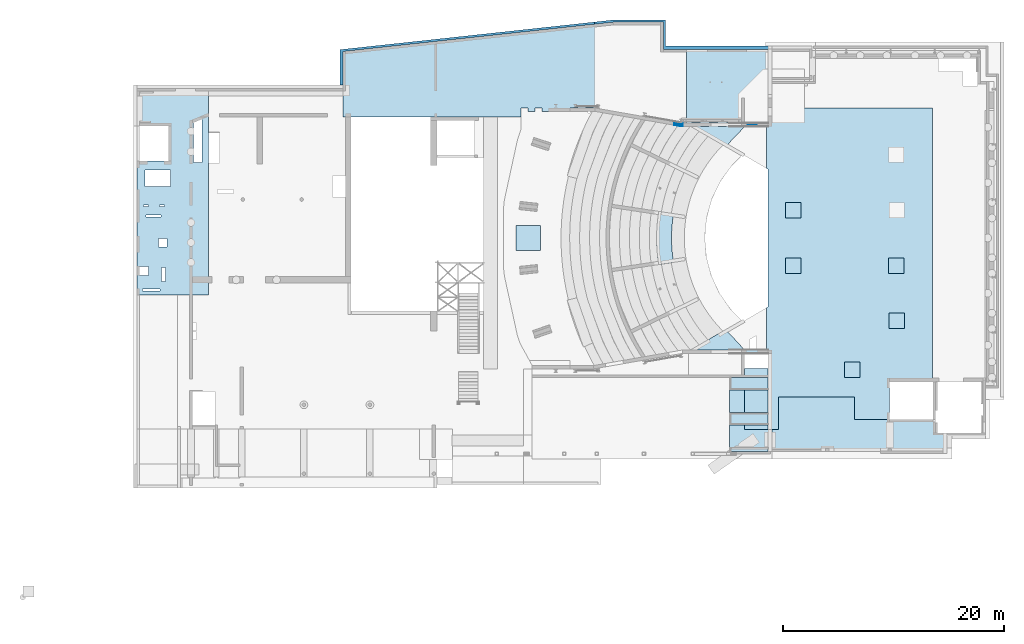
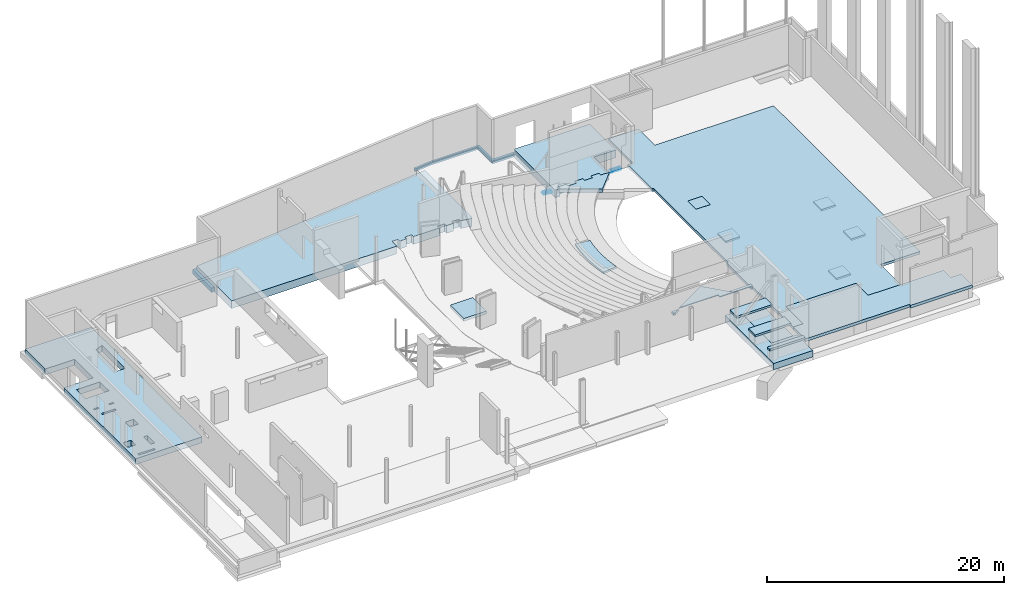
# One storey, part 23 of 34: 23 slabs, 10 openings.
"""IFC2X3 building model written with IfcOpenShell, lengths in millimetres."""

from ifc_helpers import new_model, entity, si_unit, converted_unit, derived_unit, direction, frame, frame_2d, origin, origin_2d_with_axis, place, context, subcontext, project, spatial, polyline, circle_curve, parameter, trimmed, segment, composite_curve, rectangle, outline, extrude, material, layer, layer_set, layer_usage, type_object, element, save


model = new_model("IFC2X3")

# Units and contexts
model_context = context("Model", 3, precision=0.01, world=origin(), true_north=direction((6.12303176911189e-17, 1.0)))
body_context = subcontext(model_context, "Body", "Model", "MODEL_VIEW")
ifc_project = project(units=[si_unit("LENGTHUNIT", "METRE", prefix="MILLI"), si_unit("AREAUNIT", "SQUARE_METRE", prefix="MILLI"), si_unit("VOLUMEUNIT", "CUBIC_METRE"), converted_unit("PLANEANGLEUNIT", "DEGREE", entity("IfcRatioMeasure", 0.0174532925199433), si_unit("PLANEANGLEUNIT", "RADIAN"), dimensions=[0, 0, 0, 0, 0, 0, 0]), si_unit("MASSUNIT", "GRAM", prefix="KILO"), derived_unit("MASSDENSITYUNIT", [(si_unit("MASSUNIT", "GRAM", prefix="KILO"), 1), (si_unit("LENGTHUNIT", "METRE"), -3)]), derived_unit("MOMENTOFINERTIAUNIT", [(si_unit("LENGTHUNIT", "METRE"), 4)]), si_unit("TIMEUNIT", "SECOND"), si_unit("FREQUENCYUNIT", "HERTZ"), si_unit("THERMODYNAMICTEMPERATUREUNIT", "DEGREE_CELSIUS"), derived_unit("THERMALTRANSMITTANCEUNIT", [(si_unit("MASSUNIT", "GRAM", prefix="KILO"), 1), (si_unit("THERMODYNAMICTEMPERATUREUNIT", "KELVIN"), -1), (si_unit("TIMEUNIT", "SECOND"), -3)]), derived_unit("VOLUMETRICFLOWRATEUNIT", [(si_unit("LENGTHUNIT", "METRE"), 3), (si_unit("TIMEUNIT", "SECOND"), -1)]), si_unit("ELECTRICCURRENTUNIT", "AMPERE"), si_unit("ELECTRICVOLTAGEUNIT", "VOLT"), si_unit("POWERUNIT", "WATT"), si_unit("FORCEUNIT", "NEWTON", prefix="KILO"), si_unit("ILLUMINANCEUNIT", "LUX"), si_unit("LUMINOUSFLUXUNIT", "LUMEN"), si_unit("LUMINOUSINTENSITYUNIT", "CANDELA"), derived_unit("USERDEFINED", [(si_unit("MASSUNIT", "GRAM", prefix="KILO"), -1), (si_unit("LENGTHUNIT", "METRE"), -2), (si_unit("TIMEUNIT", "SECOND"), 3), (si_unit("LUMINOUSFLUXUNIT", "LUMEN"), 1)]), derived_unit("LINEARVELOCITYUNIT", [(si_unit("LENGTHUNIT", "METRE"), 1), (si_unit("TIMEUNIT", "SECOND"), -1)]), si_unit("PRESSUREUNIT", "PASCAL"), derived_unit("USERDEFINED", [(si_unit("LENGTHUNIT", "METRE"), -2), (si_unit("MASSUNIT", "GRAM", prefix="KILO"), 1), (si_unit("TIMEUNIT", "SECOND"), -2)]), derived_unit("LINEARFORCEUNIT", [(si_unit("MASSUNIT", "GRAM", prefix="KILO"), 1), (si_unit("LENGTHUNIT", "METRE"), 1), (si_unit("TIMEUNIT", "SECOND"), -2), (si_unit("LENGTHUNIT", "METRE"), -1)]), derived_unit("PLANARFORCEUNIT", [(si_unit("MASSUNIT", "GRAM", prefix="KILO"), 1), (si_unit("LENGTHUNIT", "METRE"), 1), (si_unit("TIMEUNIT", "SECOND"), -2), (si_unit("LENGTHUNIT", "METRE"), -2)])], contexts=[model_context])

# Site, building, storey
site_placement = place(None, origin())
site = spatial("IfcSite", under=ifc_project, at=site_placement, Name="Theater aan de Parade", CompositionType="ELEMENT")
building_placement = place(site_placement, origin())
building = spatial("IfcBuilding", under=site, at=building_placement, Name="Theater aan de Parade", CompositionType="ELEMENT")
storey_placement = place(building_placement, frame((0.0, 0.0, 3.49116848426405e-09)))
storey = spatial("IfcBuildingStorey", under=building, at=storey_placement, Name="00 begane grond", CompositionType="ELEMENT", Elevation=3.49116848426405e-09)

# Slabs
ifc_material_1 = material(Name="00_PBT_MAT_beton t.p.g.")
ifc_layer_1 = layer(ifc_material_1, 150.0)
ifc_layer_set_1 = layer_set([ifc_layer_1], Name="Floor:28_PBT_FL_beton t.p.g._d=150_bestaand")
ifc_layer_usage_1 = layer_usage(ifc_layer_set_1, "AXIS3", "POSITIVE", 0.0)
slab_type_1 = type_object("IfcSlabType", Name="Floor:28_PBT_FL_beton t.p.g._d=150_bestaand", PredefinedType="FLOOR", material=ifc_layer_set_1)
slab_1_placement = place(storey_placement, origin())
element("IfcSlab", 1, at=slab_1_placement, inside=storey, type_object=slab_type_1, material=ifc_layer_usage_1, Name="Floor:28_PBT_FL_beton t.p.g._d=150_bestaand", ObjectType="Floor:28_PBT_FL_beton t.p.g._d=150_bestaand", PredefinedType="FLOOR", context=body_context, shape_type="SweptSolid", body=[
    extrude(outline(polyline([(-630.484755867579, -148.0), (369.515244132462, -148.0), (369.515244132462, -8.0), (521.93902347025, 152.0), (-630.484755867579, 152.0), (-630.484755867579, -148.0)])), frame((65789.5152441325, 42702.0, 810.0), z_axis=(0.0, 0.0, 1.0), x_axis=(-1.0, 0.0, 0.0)), (0.0, 0.0, 1.0), 150.0),
    extrude(outline(polyline([(-157.442580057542, -316.818701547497), (142.557419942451, -316.818701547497), (142.557419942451, -117.267752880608), (245.886003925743, 473.181298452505), (-58.6731036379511, 473.181298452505), (-157.442580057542, -91.2157096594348), (-157.442580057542, -104.241731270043), (-157.442580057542, -316.818701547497)])), frame((59350.2128617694, 42707.4425800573, 810.0), z_axis=(0.0, 0.0, 1.0), x_axis=(0.0, 1.0, 0.0)), (0.0, 0.0, 1.0), 150.0),
])
ifc_layer_2 = layer(ifc_material_1, 200.0)
ifc_layer_set_2 = layer_set([ifc_layer_2], Name="Floor:28_PBT_FL_beton t.p.g._d=200_bestaand")
ifc_layer_usage_2 = layer_usage(ifc_layer_set_2, "AXIS3", "POSITIVE", 0.0)
slab_type_2 = type_object("IfcSlabType", Name="Floor:28_PBT_FL_beton t.p.g._d=200_bestaand", PredefinedType="FLOOR", material=ifc_layer_set_2)
slab_2_placement = place(storey_placement, origin())
element("IfcSlab", 2, at=slab_2_placement, inside=storey, type_object=slab_type_2, material=ifc_layer_usage_2, Name="Floor:28_PBT_FL_beton t.p.g._d=200_bestaand", ObjectType="Floor:28_PBT_FL_beton t.p.g._d=200_bestaand", PredefinedType="FLOOR", context=body_context, shape_type="SweptSolid", body=[
    extrude(outline(polyline([(-1198.44340943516, -140.0), (737.812691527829, -140.0), (737.812691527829, -40.0), (921.261435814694, 160.0), (-1198.44340943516, 160.0), (-1198.44340943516, -140.0)])), frame((66157.8126915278, 22180.0, 960.0), z_axis=(0.0, 0.0, -1.0), x_axis=(-1.0, 0.0, 0.0)), (0.0, 0.0, 1.0), 80.0),
])
ifc_layer_3 = layer(ifc_material_1, 380.0)
ifc_layer_set_3 = layer_set([ifc_layer_3], Name="Floor:28_PBT_FL_beton t.p.g._d=380_bestaand")
ifc_layer_usage_3 = layer_usage(ifc_layer_set_3, "AXIS3", "POSITIVE", 0.0)
slab_type_3 = type_object("IfcSlabType", Name="Floor:28_PBT_FL_beton t.p.g._d=380_bestaand", PredefinedType="FLOOR", material=ifc_layer_set_3)
slab_3_placement = place(storey_placement, origin())
element("IfcSlab", 3, at=slab_3_placement, inside=storey, type_object=slab_type_3, material=ifc_layer_usage_3, Name="Floor:28_PBT_FL_beton t.p.g._d=380_bestaand", ObjectType="Floor:28_PBT_FL_beton t.p.g._d=380_bestaand", PredefinedType="FLOOR", context=body_context, shape_type="SweptSolid", body=[
    extrude(outline(composite_curve([segment(polyline([(-352.071482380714, -2370.65962034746), (-212.071482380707, -2370.65962034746)]), True, "CONTINUOUS"), segment(polyline([(-212.071482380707, -2370.65962034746), (1659.78687017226, -587.436342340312)]), True, "CONTINUOUS"), segment(trimmed(circle_curve(frame_2d((10051.3995351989, -9316.7484278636), x_axis=(-0.693024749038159, 0.720913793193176)), 12108.6767487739), [parameter(359.180938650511)], [parameter(0.0)], True, "PARAMETER"), False, "CONTINUOUS"), segment(polyline([(1785.42833029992, -468.371591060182), (-52.0714823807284, 2714.84476976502)]), True, "CONTINUOUS"), segment(polyline([(-52.0714823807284, 2714.84476976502), (-52.0714823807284, 2592.30881633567)]), True, "CONTINUOUS"), segment(polyline([(-52.0714823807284, 2592.30881633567), (-352.071482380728, 2592.30881633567)]), True, "CONTINUOUS"), segment(polyline([(-352.071482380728, 2592.30881633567), (-352.071482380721, 1802.30881633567)]), True, "CONTINUOUS"), segment(polyline([(-352.071482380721, 1802.30881633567), (-52.0714823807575, 1802.30881633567)]), True, "CONTINUOUS"), segment(polyline([(-52.0714823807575, 1802.30881633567), (-52.0714823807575, 1012.30881633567)]), True, "CONTINUOUS"), segment(polyline([(-52.0714823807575, 1012.30881633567), (-352.071482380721, 1012.30881633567)]), True, "CONTINUOUS"), segment(polyline([(-352.071482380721, 1012.30881633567), (-352.071482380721, 222.308816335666)]), True, "CONTINUOUS"), segment(polyline([(-352.071482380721, 222.308816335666), (-52.071482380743, 222.308816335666)]), True, "CONTINUOUS"), segment(polyline([(-52.071482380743, 222.308816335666), (-52.071482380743, -567.691183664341)]), True, "CONTINUOUS"), segment(polyline([(-52.071482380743, -567.691183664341), (-352.071482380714, -567.691183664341)]), True, "CONTINUOUS"), segment(polyline([(-352.071482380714, -567.691183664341), (-352.071482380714, -1357.69118366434)]), True, "CONTINUOUS"), segment(polyline([(-352.071482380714, -1357.69118366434), (-52.0714823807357, -1357.69118366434)]), True, "CONTINUOUS"), segment(polyline([(-52.0714823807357, -1357.69118366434), (-52.0714823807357, -2162.71169584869)]), True, "CONTINUOUS"), segment(polyline([(-52.0714823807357, -2162.71169584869), (-352.071482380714, -2162.71169584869)]), True, "CONTINUOUS"), segment(polyline([(-352.071482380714, -2162.71169584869), (-352.071482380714, -2370.65962034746)]), True, "CONTINUOUS")], self_intersect=False)), frame((63049.3403796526, 42497.9285176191, 960.0), z_axis=(0.0, 0.0, -1.0), x_axis=(0.0, -1.0, 0.0)), (0.0, 0.0, 1.0), 380.0),
])
ifc_layer_usage_4 = layer_usage(ifc_layer_set_3, "AXIS3", "POSITIVE", 0.0)
slab_type_4 = type_object("IfcSlabType", Name="Floor:28_PBT_FL_beton t.p.g._d=380_bestaand", PredefinedType="FLOOR", material=ifc_layer_set_3)
slab_4_placement = place(storey_placement, origin())
element("IfcSlab", 4, at=slab_4_placement, inside=storey, type_object=slab_type_4, material=ifc_layer_usage_4, Name="Floor:28_PBT_FL_beton t.p.g._d=380_bestaand", ObjectType="Floor:28_PBT_FL_beton t.p.g._d=380_bestaand", PredefinedType="FLOOR", context=body_context, shape_type="SweptSolid", body=[
    extrude(outline(polyline([(-178.495454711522, -120.0), (-152.443411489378, -120.0), (-5.13726283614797, -120.0), (514.571583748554, 180.0), (-178.495454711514, 180.0), (-178.495454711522, -120.0)])), frame((59819.9240261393, 22160.0, 580.0)), (0.0, 0.0, 1.0), 260.000000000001),
    extrude(outline(composite_curve([segment(polyline([(-3684.83342451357, 314.841981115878), (-496.401787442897, -1525.66833039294)]), True, "CONTINUOUS"), segment(trimmed(circle_curve(frame_2d((8240.67096559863, -9795.15801888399), x_axis=(0.0, 1.0)), 12030.0), [parameter(44.1498345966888)], [parameter(46.5749090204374)], True, "PARAMETER"), False, "CONTINUOUS"), segment(polyline([(-138.670871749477, -1163.38355630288), (1217.22222131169, 314.841981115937)]), True, "CONTINUOUS"), segment(polyline([(1217.22222131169, 314.841981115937), (1400.67096559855, 514.841981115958)]), True, "CONTINUOUS"), segment(polyline([(1400.67096559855, 514.841981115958), (1400.67096559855, 614.841981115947)]), True, "CONTINUOUS"), segment(polyline([(1400.67096559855, 614.841981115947), (150.670965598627, 614.841981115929)]), True, "CONTINUOUS"), segment(polyline([(150.670965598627, 614.841981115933), (150.670965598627, 314.84198111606)]), True, "CONTINUOUS"), segment(polyline([(150.670965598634, 314.84198111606), (-3684.83342451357, 314.84198111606)]), True, "CONTINUOUS")], self_intersect=False)), frame((64019.3290344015, 22654.8419811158, 880.0), z_axis=(0.0, 0.0, -1.0), x_axis=(1.0, 0.0, 0.0)), (0.0, 0.0, -1.0), 79.9999999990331),
])
ifc_layer_usage_5 = layer_usage(ifc_layer_set_2, "AXIS3", "POSITIVE", 0.0)
slab_type_5 = type_object("IfcSlabType", Name="Floor:28_PBT_FL_beton t.p.g._d=200_bestaand", PredefinedType="FLOOR", material=ifc_layer_set_2)
slab_5_placement = place(storey_placement, origin())
element("IfcSlab", 5, at=slab_5_placement, inside=storey, type_object=slab_type_5, material=ifc_layer_usage_5, Name="Floor:28_PBT_FL_beton t.p.g._d=200_bestaand", ObjectType="Floor:28_PBT_FL_beton t.p.g._d=200_bestaand", PredefinedType="FLOOR", context=body_context, shape_type="SweptSolid", body=[
    extrude(outline(composite_curve([segment(polyline([(-1023.01112421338, -2283.89739377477), (331.426794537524, -2283.89739377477)]), True, "CONTINUOUS"), segment(trimmed(circle_curve(frame_2d((14039.2775712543, -2133.41392121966), x_axis=(-0.999939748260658, -0.0109772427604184)), 13708.6767484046), [parameter(341.460456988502)], [parameter(0.0)], True, "PARAMETER"), False, "CONTINUOUS"), segment(polyline([(994.95580528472, 2082.4475397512), (-303.371475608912, 2485.34724779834)]), True, "CONTINUOUS"), segment(trimmed(circle_curve(frame_2d((13955.9227374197, -2105.1787075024), x_axis=(-0.951888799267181, 0.306443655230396)), 14980.0000000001), [parameter(0.0)], [parameter(18.5286214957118)], True, "PARAMETER"), True, "CONTINUOUS")], self_intersect=False)), frame((58146.1941711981, 32456.4707203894, 970.0), z_axis=(0.0, 0.0, -1.0), x_axis=(0.988744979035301, -0.149610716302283, 0.0)), (0.0, 0.0, 1.0), 200.0),
])
ifc_layer_4 = layer(ifc_material_1, 300.0)
ifc_layer_set_4 = layer_set([ifc_layer_4], Name="Floor:28_PBT_FL_beton t.p.g._d=300_bestaand")
ifc_layer_usage_6 = layer_usage(ifc_layer_set_4, "AXIS3", "POSITIVE", 0.0)
slab_type_6 = type_object("IfcSlabType", Name="Floor:28_PBT_FL_beton t.p.g._d=300_bestaand", PredefinedType="FLOOR", material=ifc_layer_set_4)
slab_6_placement = place(storey_placement, origin())
element("IfcSlab", 6, at=slab_6_placement, inside=storey, type_object=slab_type_6, material=ifc_layer_usage_6, Name="Floor:28_PBT_FL_beton t.p.g._d=300_bestaand", ObjectType="Floor:28_PBT_FL_beton t.p.g._d=300_bestaand", PredefinedType="FLOOR", context=body_context, shape_type="SweptSolid", body=[
    extrude(rectangle(XDim=2299.99999999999, YDim=2199.99999999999, at=frame_2d((-2.1600499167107e-12, 0.0), x_axis=(1.0, 0.0))), frame((45675.0, 32460.0, -60.0), z_axis=(0.0, 0.0, -1.0), x_axis=(0.0, 1.0, 0.0)), (0.0, 0.0, 1.0), 300.0),
])
ifc_material_2 = material(Name="00_PBT_MAT_beton t.p.g._C30/37")
ifc_layer_5 = layer(ifc_material_2, 300.0)
ifc_layer_set_5 = layer_set([ifc_layer_5], Name="Foundation Slab:13_PBT_FS_beton t.p.g._d=300_C30/37")
ifc_layer_usage_7 = layer_usage(ifc_layer_set_5, "AXIS3", "POSITIVE", 0.0)
slab_type_7 = type_object("IfcSlabType", Name="Foundation Slab:13_PBT_FS_beton t.p.g._d=300_C30/37", PredefinedType="BASESLAB", material=ifc_layer_set_5)
slab_7_placement = place(storey_placement, origin())
element("IfcSlab", 7, at=slab_7_placement, inside=storey, type_object=slab_type_7, material=ifc_layer_usage_7, Name="Foundation Slab:13_PBT_FS_beton t.p.g._d=300_C30/37", ObjectType="Foundation Slab:13_PBT_FS_beton t.p.g._d=300_C30/37", PredefinedType="BASESLAB", context=body_context, shape_type="SweptSolid", body=[
    extrude(outline(polyline([(-1904.49999958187, -8373.63799156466), (115.500000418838, -8373.63799156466), (115.500000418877, -7429.79406003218), (3050.50000041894, -7429.79406003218), (3050.50000041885, -579.894092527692), (1005.50000041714, -579.894092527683), (1005.50000041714, 6770.11432917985), (-204.499999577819, 6770.11432917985), (-204.49999957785, 7805.10590747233), (-2062.50000209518, 7805.10590747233), (-2062.50000209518, 1808.10590747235), (-1904.49999958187, 1808.10590747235), (-1904.49999958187, -8373.63799156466)])), frame((75729.8940925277, 15054.4999995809, 880.0), z_axis=(0.0, 0.0, -1.0), x_axis=(0.0, 1.0, 0.0)), (0.0, 0.0, 1.0), 300.0),
])
ifc_layer_6 = layer(ifc_material_2, 270.0)
ifc_layer_set_6 = layer_set([ifc_layer_6], Name="Floor:28_PBT_FL_beton t.p.g._d=270_C30/37")
ifc_layer_usage_8 = layer_usage(ifc_layer_set_6, "AXIS3", "POSITIVE", 0.0)
slab_type_8 = type_object("IfcSlabType", Name="Floor:28_PBT_FL_beton t.p.g._d=270_C30/37", PredefinedType="FLOOR", material=ifc_layer_set_6)
slab_8_placement = place(storey_placement, origin())
element("IfcSlab", 8, at=slab_8_placement, inside=storey, type_object=slab_type_8, material=ifc_layer_usage_8, Name="Floor:28_PBT_FL_beton t.p.g._d=270_C30/37", ObjectType="Floor:28_PBT_FL_beton t.p.g._d=270_C30/37", PredefinedType="FLOOR", context=body_context, shape_type="SweptSolid", body=[
    extrude(outline(polyline([(3865.03489794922, -13916.9003962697), (4365.23144778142, -13916.9003962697), (4365.23144778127, -9817.79361276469), (4221.29099891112, -9733.60307378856), (4221.29099891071, 2699.80228124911), (4365.23144778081, 2783.99282022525), (4365.23144778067, 6893.09960373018), (4215.03489794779, 6893.09960373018), (4215.03489794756, 13763.0996037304), (3271.19096641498, 13763.0996037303), (3271.19096641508, 10828.0996037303), (-3578.70900108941, 10828.0996037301), (-3578.70900108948, 12873.0996037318), (-6778.80903358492, 12873.0996037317), (-6778.8090335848, 9473.09936020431), (-10628.7090010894, 9473.09936020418), (-10628.7090010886, -15251.9003962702), (931.290998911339, -15251.9003962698), (931.290998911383, -18028.7727369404), (3865.03489794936, -18028.7727369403), (3865.03489794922, -13916.9003962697)]), holes=[polyline([(2651.29099891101, -5336.90039626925), (2651.29099891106, -6736.90039626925), (1251.29099891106, -6736.9003962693), (1251.29099891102, -5336.9003962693), (2651.29099891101, -5336.90039626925)])]), frame((71571.2909989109, 28933.09960373, 610.0), z_axis=(0.0, 0.0, 1.0), x_axis=(-1.0, 0.0, 0.0)), (0.0, 0.0, 1.0), 270.0),
])

# Slab, openings
ifc_layer_7 = layer(ifc_material_2, 600.0)
ifc_layer_set_7 = layer_set([ifc_layer_7], Name="Floor:28_PBT_FL_beton t.p.g._d=600_C30/37")
ifc_layer_usage_9 = layer_usage(ifc_layer_set_7, "AXIS3", "POSITIVE", 0.0)
slab_type_9 = type_object("IfcSlabType", Name="Floor:28_PBT_FL_beton t.p.g._d=600_C30/37", PredefinedType="FLOOR", material=ifc_layer_set_7)
slab_9_placement = place(storey_placement, frame((10304.11255372, 27320.0, -690.0)))
slab_9 = element("IfcSlab", 9, at=slab_9_placement, inside=storey, type_object=slab_type_9, material=ifc_layer_usage_9, Name="Floor:28_PBT_FL_beton t.p.g._d=600_C30/37", ObjectType="Floor:28_PBT_FL_beton t.p.g._d=600_C30/37", PredefinedType="FLOOR", context=body_context, shape_type="SweptSolid", body=[
    extrude(outline(polyline([(3235.44372314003, 9326.49999999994), (-3235.44372314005, 9326.49999999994), (-3235.44372314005, -9326.49999999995), (3235.44372314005, -9326.49999999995), (3235.44372314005, 2773.49999997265), (384.699274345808, 2773.49999997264), (384.699274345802, 5923.50000000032), (3235.44372314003, 5923.50000000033), (3235.44372314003, 9326.49999999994)])), frame((3235.44372314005, 9326.49999999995, 600.0), z_axis=(0.0, 0.0, -1.0), x_axis=(-1.0, 0.0, 0.0)), (0.0, 0.0, 1.0), 600.0),
])
opening_1_placement = place(slab_9_placement, origin())
element("IfcOpeningElement", 10, at=opening_1_placement, cuts=slab_9, ObjectType="Opening", context=body_context, shape_type="SweptSolid", body=[
    extrude(rectangle(XDim=800.0, YDim=800.0, at=origin_2d_with_axis()), frame((650.0, 2172.0, 0.0), z_axis=(0.0, 0.0, 1.0), x_axis=(-1.0, 0.0, 0.0)), (0.0, 0.0, 1.0), 600.0),
])
opening_2_placement = place(slab_9_placement, origin())
element("IfcOpeningElement", 11, at=opening_2_placement, cuts=slab_9, ObjectType="Opening", context=body_context, shape_type="SweptSolid", body=[
    extrude(rectangle(XDim=1235.0, YDim=360.0, at=origin_2d_with_axis()), frame((2395.0, 1841.49999999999, 0.0), z_axis=(0.0, 0.0, 1.0), x_axis=(0.0, -1.0, 0.0)), (0.0, 0.0, 1.0), 600.0),
])
opening_3_placement = place(slab_9_placement, origin())
element("IfcOpeningElement", 12, at=opening_3_placement, cuts=slab_9, ObjectType="Opening", context=body_context, shape_type="SweptSolid", body=[
    extrude(rectangle(XDim=700.000000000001, YDim=299.999999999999, at=origin_2d_with_axis()), frame((5249.74444879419, -2879.50078969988, 280.0), z_axis=(0.0, 0.0, 1.0), x_axis=(0.0, -1.0, 0.0)), (0.0, 0.0, 1.0), 320.0),
])
opening_4_placement = place(slab_9_placement, origin())
element("IfcOpeningElement", 13, at=opening_4_placement, cuts=slab_9, ObjectType="Opening", context=body_context, shape_type="SweptSolid", body=[
    extrude(rectangle(XDim=150.000000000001, YDim=449.999999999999, at=origin_2d_with_axis()), frame((815.887446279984, 8064.32707460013, 0.0), z_axis=(0.0, 0.0, 1.0), x_axis=(0.0, -1.0, 0.0)), (0.0, 0.0, 1.0), 600.0),
])
opening_5_placement = place(slab_9_placement, origin())
element("IfcOpeningElement", 14, at=opening_5_placement, cuts=slab_9, ObjectType="Opening", context=body_context, shape_type="SweptSolid", body=[
    extrude(rectangle(XDim=150.000000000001, YDim=449.999999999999, at=origin_2d_with_axis()), frame((2300.88744627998, 8064.32707460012, 0.0), z_axis=(0.0, 0.0, 1.0), x_axis=(0.0, -1.0, 0.0)), (0.0, 0.0, 1.0), 600.0),
])
opening_6_placement = place(slab_9_placement, origin())
element("IfcOpeningElement", 15, at=opening_6_placement, cuts=slab_9, ObjectType="Opening", context=body_context, shape_type="SweptSolid", body=[
    extrude(rectangle(XDim=1600.0, YDim=200.000000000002, at=origin_2d_with_axis()), frame((1320.0, 442.0, 0.0), z_axis=(0.0, 0.0, 1.0), x_axis=(-1.0, 0.0, 0.0)), (0.0, 0.0, 1.0), 600.0),
])
opening_7_placement = place(slab_9_placement, origin())
element("IfcOpeningElement", 16, at=opening_7_placement, cuts=slab_9, ObjectType="Opening", context=body_context, shape_type="SweptSolid", body=[
    extrude(rectangle(XDim=800.0, YDim=800.0, at=origin_2d_with_axis()), frame((2350.0, 4712.0, 0.0), z_axis=(0.0, 0.0, 1.0), x_axis=(-1.0, 0.0, 0.0)), (0.0, 0.0, 1.0), 600.0),
])
opening_8_placement = place(slab_9_placement, origin())
element("IfcOpeningElement", 17, at=opening_8_placement, cuts=slab_9, ObjectType="Opening", context=body_context, shape_type="SweptSolid", body=[
    extrude(rectangle(XDim=1350.0, YDim=200.000000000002, at=origin_2d_with_axis()), frame((1500.0, 7130.0, 0.0), z_axis=(0.0, 0.0, 1.0), x_axis=(-1.0, 0.0, 0.0)), (0.0, 0.0, 1.0), 600.0),
])
opening_9_placement = place(slab_9_placement, frame((5509.87193602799, 13839.062766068, 600.0)))
element("IfcOpeningElement", 18, at=opening_9_placement, cuts=slab_9, Name="Floor:28_PBT_FL_beton t.p.g._d=600_C30/37:2", ObjectType="Opening", context=body_context, shape_type="SweptSolid", body=[
    extrude(outline(polyline([(-375.0, -1878.28502170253), (375.0, -1878.28502170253), (375.0, 1726.64298533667), (-375.0, 2029.92705806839), (-375.0, -1878.28502170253)])), frame((0.0, 0.0, 0.0), z_axis=(0.0, 0.0, -1.0), x_axis=(-1.0, 0.0, 0.0)), (0.0, 0.0, 1.0), 600.0),
])
opening_10_placement = place(slab_9_placement, frame((1900.0, 10550.0, 600.0)))
element("IfcOpeningElement", 19, at=opening_10_placement, cuts=slab_9, Name="Floor:28_PBT_FL_beton t.p.g._d=600_C30/37:3", ObjectType="Opening", context=body_context, shape_type="SweptSolid", body=[
    extrude(rectangle(XDim=2300.0, YDim=1500.0, at=origin_2d_with_axis()), frame((0.0, 0.0, 0.0), z_axis=(0.0, 0.0, 1.0), x_axis=(-1.0, 0.0, 0.0)), (0.0, 0.0, -1.0), 600.0),
])

# Slabs
ifc_layer_8 = layer(ifc_material_2, 450.0)
ifc_layer_set_8 = layer_set([ifc_layer_8], Name="Floor:28_PBT_FL_beton t.p.g._d=450_C30/37")
ifc_layer_usage_10 = layer_usage(ifc_layer_set_8, "AXIS3", "POSITIVE", 0.0)
slab_type_10 = type_object("IfcSlabType", Name="Floor:28_PBT_FL_beton t.p.g._d=450_C30/37", PredefinedType="FLOOR", material=ifc_layer_set_8)
slab_10_placement = place(storey_placement, origin())
element("IfcSlab", 20, at=slab_10_placement, inside=storey, type_object=slab_type_10, material=ifc_layer_usage_10, Name="Floor:28_PBT_FL_beton t.p.g._d=450_C30/37", ObjectType="Floor:28_PBT_FL_beton t.p.g._d=450_C30/37", PredefinedType="FLOOR", context=body_context, shape_type="SweptSolid", body=[
    extrude(rectangle(XDim=1400.0, YDim=1400.0, at=frame_2d((0.0, 4.32009983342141e-12), x_axis=(1.0, 0.0))), frame((69620.0, 34970.0, 880.0), z_axis=(0.0, 0.0, -1.0), x_axis=(0.0, 1.0, 0.0)), (0.0, 0.0, 1.0), 450.0),
])
ifc_layer_usage_11 = layer_usage(ifc_layer_set_8, "AXIS3", "POSITIVE", 0.0)
slab_type_11 = type_object("IfcSlabType", Name="Floor:28_PBT_FL_beton t.p.g._d=450_C30/37", PredefinedType="FLOOR", material=ifc_layer_set_8)
slab_11_placement = place(storey_placement, origin())
element("IfcSlab", 21, at=slab_11_placement, inside=storey, type_object=slab_type_11, material=ifc_layer_usage_11, Name="Floor:28_PBT_FL_beton t.p.g._d=450_C30/37", ObjectType="Floor:28_PBT_FL_beton t.p.g._d=450_C30/37", PredefinedType="FLOOR", context=body_context, shape_type="SweptSolid", body=[
    extrude(rectangle(XDim=1400.0, YDim=1400.0, at=frame_2d((-4.32009983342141e-12, 4.32009983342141e-12), x_axis=(1.0, 0.0))), frame((69620.0, 29970.0, 430.0), z_axis=(0.0, 0.0, 1.0), x_axis=(0.0, 1.0, 0.0)), (0.0, 0.0, 1.0), 180.0),
])
ifc_layer_usage_12 = layer_usage(ifc_layer_set_8, "AXIS3", "POSITIVE", 0.0)
slab_type_12 = type_object("IfcSlabType", Name="Floor:28_PBT_FL_beton t.p.g._d=450_C30/37", PredefinedType="FLOOR", material=ifc_layer_set_8)
slab_12_placement = place(storey_placement, origin())
element("IfcSlab", 22, at=slab_12_placement, inside=storey, type_object=slab_type_12, material=ifc_layer_usage_12, Name="Floor:28_PBT_FL_beton t.p.g._d=450_C30/37", ObjectType="Floor:28_PBT_FL_beton t.p.g._d=450_C30/37", PredefinedType="FLOOR", context=body_context, shape_type="SweptSolid", body=[
    extrude(rectangle(XDim=1399.99999999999, YDim=1399.99999999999, at=origin_2d_with_axis()), frame((78945.0, 29970.0, 430.0), z_axis=(0.0, 0.0, 1.0), x_axis=(0.0, 1.0, 0.0)), (0.0, 0.0, 1.0), 180.000000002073),
])
ifc_layer_usage_13 = layer_usage(ifc_layer_set_8, "AXIS3", "POSITIVE", 0.0)
slab_type_13 = type_object("IfcSlabType", Name="Floor:28_PBT_FL_beton t.p.g._d=450_C30/37", PredefinedType="FLOOR", material=ifc_layer_set_8)
slab_13_placement = place(storey_placement, origin())
element("IfcSlab", 23, at=slab_13_placement, inside=storey, type_object=slab_type_13, material=ifc_layer_usage_13, Name="Floor:28_PBT_FL_beton t.p.g._d=450_C30/37", ObjectType="Floor:28_PBT_FL_beton t.p.g._d=450_C30/37", PredefinedType="FLOOR", context=body_context, shape_type="SweptSolid", body=[
    extrude(rectangle(XDim=1399.99999999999, YDim=1399.99999999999, at=origin_2d_with_axis()), frame((78970.0, 24970.0, 430.0), z_axis=(0.0, 0.0, 1.0), x_axis=(0.0, 1.0, 0.0)), (0.0, 0.0, 1.0), 180.000000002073),
])
ifc_layer_usage_14 = layer_usage(ifc_layer_set_8, "AXIS3", "POSITIVE", 0.0)
slab_type_14 = type_object("IfcSlabType", Name="Floor:28_PBT_FL_beton t.p.g._d=450_C30/37", PredefinedType="FLOOR", material=ifc_layer_set_8)
slab_14_placement = place(storey_placement, origin())
element("IfcSlab", 24, at=slab_14_placement, inside=storey, type_object=slab_type_14, material=ifc_layer_usage_14, Name="Floor:28_PBT_FL_beton t.p.g._d=450_C30/37", ObjectType="Floor:28_PBT_FL_beton t.p.g._d=450_C30/37", PredefinedType="FLOOR", context=body_context, shape_type="SweptSolid", body=[
    extrude(rectangle(XDim=1399.99999999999, YDim=1399.99999999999, at=origin_2d_with_axis()), frame((74975.0, 20570.0, 430.0), z_axis=(0.0, 0.0, 1.0), x_axis=(0.0, 1.0, 0.0)), (0.0, 0.0, 1.0), 180.000000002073),
])
ifc_layer_9 = layer(ifc_material_2, 300.0)
ifc_layer_set_9 = layer_set([ifc_layer_9], Name="Floor:28_PBT_FL_beton t.p.g._d=300_C30/37")
ifc_layer_usage_15 = layer_usage(ifc_layer_set_9, "AXIS3", "POSITIVE", 0.0)
slab_type_15 = type_object("IfcSlabType", Name="Floor:28_PBT_FL_beton t.p.g._d=300_C30/37", PredefinedType="FLOOR", material=ifc_layer_set_9)
slab_15_placement = place(storey_placement, origin())
element("IfcSlab", 25, at=slab_15_placement, inside=storey, type_object=slab_type_15, material=ifc_layer_usage_15, Name="Floor:28_PBT_FL_beton t.p.g._d=300_C30/37", ObjectType="Floor:28_PBT_FL_beton t.p.g._d=300_C30/37", PredefinedType="FLOOR", context=body_context, shape_type="SweptSolid", body=[
    extrude(outline(polyline([(714.482058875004, -6073.86018048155), (915.656008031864, -6073.86018048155), (1098.10167904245, -4392.45433558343), (1098.10167904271, 347.226821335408), (-1260.85294880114, 347.226821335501), (-1260.85294880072, 9966.45135898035), (-1550.41944273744, 9966.45135898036), (-1550.41944273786, 147.226821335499), (898.10167904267, 147.226821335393), (898.101679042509, -4381.63530675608), (714.482058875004, -6073.86018048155)])), frame((57739.8047419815, 51062.4174336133, 460.0), z_axis=(0.0, 0.0, -1.0), x_axis=(0.0, 1.0, 0.0)), (0.0, 0.0, 1.0), 300.0),
])
ifc_layer_10 = layer(ifc_material_2, 800.0)
ifc_layer_set_10 = layer_set([ifc_layer_10], Name="Foundation Slab:13_PBT_FS_beton t.p.g._d=800_C30/37")
ifc_layer_usage_16 = layer_usage(ifc_layer_set_10, "AXIS3", "POSITIVE", 0.0)
slab_type_16 = type_object("IfcSlabType", Name="Foundation Slab:13_PBT_FS_beton t.p.g._d=800_C30/37", PredefinedType="BASESLAB", material=ifc_layer_set_10)
slab_16_placement = place(storey_placement, origin())
element("IfcSlab", 26, at=slab_16_placement, inside=storey, type_object=slab_type_16, material=ifc_layer_usage_16, Name="Foundation Slab:13_PBT_FS_beton t.p.g._d=800_C30/37", ObjectType="Foundation Slab:13_PBT_FS_beton t.p.g._d=800_C30/37", PredefinedType="BASESLAB", context=body_context, shape_type="SweptSolid", body=[
    extrude(outline(polyline([(-1156.34912091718, -18540.5403250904), (4754.48820596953, -18540.5403250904), (7329.05818458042, 5186.5066701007), (-516.080311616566, 5186.50667010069), (-508.836381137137, 5145.11278164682), (-804.345521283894, 5093.39868212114), (-646.349120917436, 4190.56210859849), (-646.349120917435, 4090.56210860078), (-346.349120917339, 4090.56210860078), (-346.349120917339, 3390.56210860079), (-646.349120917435, 3390.56210860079), (-646.349120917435, 2690.56210860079), (-346.349120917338, 2690.56210860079), (-346.349120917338, 1990.56210860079), (-646.349120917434, 1990.56210860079), (-646.349120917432, -539.437891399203), (-346.349120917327, -539.437891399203), (-346.349120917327, -1189.4378913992), (-646.349120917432, -1189.4378913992), (-646.349120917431, -1839.4378913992), (-346.349120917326, -1839.4378913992), (-346.349120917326, -2454.43789139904), (-1156.34912091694, -2454.43789139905), (-1156.34912091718, -18540.5403250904)])), frame((47479.4378913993, 44556.3491209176, -90.0), z_axis=(0.0, 0.0, -1.0), x_axis=(0.0, 1.0, 0.0)), (0.0, 0.0, 1.0), 800.0),
])
ifc_layer_usage_17 = layer_usage(ifc_layer_set_10, "AXIS3", "POSITIVE", 0.0)
slab_type_17 = type_object("IfcSlabType", Name="Foundation Slab:13_PBT_FS_beton t.p.g._d=800_C30/37", PredefinedType="BASESLAB", material=ifc_layer_set_10)
slab_17_placement = place(storey_placement, origin())
element("IfcSlab", 27, at=slab_17_placement, inside=storey, type_object=slab_type_17, material=ifc_layer_usage_17, Name="Foundation Slab:13_PBT_FS_beton t.p.g._d=800_C30/37", ObjectType="Foundation Slab:13_PBT_FS_beton t.p.g._d=800_C30/37", PredefinedType="BASESLAB", context=body_context, shape_type="SweptSolid", body=[
    extrude(outline(polyline([(-1158.84020183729, -3049.04883390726), (5803.15778903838, -3049.04883390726), (5803.15778903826, 4342.32501065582), (1408.72362382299, 4342.32501065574), (1408.72362382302, 2198.12098519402), (-1158.84020183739, 2198.12098519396), (-1158.84020183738, 1393.10047300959), (-858.840201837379, 1393.1004730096), (-858.840201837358, 603.100473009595), (-1158.84020183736, 603.10047300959), (-1158.84020183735, -186.899526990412), (-858.840201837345, -186.899526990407), (-858.840201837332, -976.899526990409), (-1158.84020183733, -976.899526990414), (-1158.84020183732, -1766.89952699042), (-858.840201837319, -1766.89952699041), (-858.840201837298, -2556.89952699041), (-1158.8402018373, -2556.89952699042), (-1158.84020183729, -3049.04883390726)])), frame((63013.9310903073, 43708.8402018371, 960.0), z_axis=(0.0, 0.0, -1.0), x_axis=(0.0, 1.0, 0.0)), (0.0, 0.0, 1.0), 800.0),
])
ifc_layer_usage_18 = layer_usage(ifc_layer_set_8, "AXIS3", "POSITIVE", 0.0)
slab_type_18 = type_object("IfcSlabType", Name="Floor:28_PBT_FL_beton t.p.g._d=450_C30/37", PredefinedType="FLOOR", material=ifc_layer_set_8)
slab_18_placement = place(storey_placement, origin())
element("IfcSlab", 28, at=slab_18_placement, inside=storey, type_object=slab_type_18, material=ifc_layer_usage_18, Name="Floor:28_PBT_FL_beton t.p.g._d=450_C30/37", ObjectType="Floor:28_PBT_FL_beton t.p.g._d=450_C30/37", PredefinedType="FLOOR", context=body_context, shape_type="SweptSolid", body=[
    extrude(outline(polyline([(-2911.66274577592, -7922.03414456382), (274.881264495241, -7922.03414456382), (2822.22179755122, 15554.0682891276), (2621.04784839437, 15554.0682891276), (105.174581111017, -7632.03414456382), (-2911.66274577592, -7632.03414456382), (-2911.66274577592, -7922.03414456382)])), frame((36570.9317108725, 49205.6627457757, -440.0), z_axis=(0.0, 0.0, -1.0), x_axis=(0.0, 1.0, 0.0)), (0.0, 0.0, 1.0), 450.0),
])
ifc_layer_11 = layer(ifc_material_2, 200.0)
ifc_layer_set_11 = layer_set([ifc_layer_11], Name="Floor:28_PBT_FL_beton t.p.g._d=200_C30/37")
ifc_layer_usage_19 = layer_usage(ifc_layer_set_11, "AXIS3", "POSITIVE", 0.0)
slab_type_19 = type_object("IfcSlabType", Name="Floor:28_PBT_FL_beton t.p.g._d=200_C30/37", PredefinedType="FLOOR")
slab_19_placement = place(storey_placement, frame((63880.2595510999, 13150.0, 840.0)))
element("IfcSlab", 29, at=slab_19_placement, inside=storey, type_object=slab_type_19, material=ifc_layer_usage_19, Name="Floor:28_PBT_FL_beton t.p.g._d=200_C30/37", ObjectType="Floor:28_PBT_FL_beton t.p.g._d=200_C30/37", PredefinedType="FLOOR", context=body_context, shape_type="SweptSolid", body=[
    extrude(rectangle(XDim=3475.99654986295, YDim=1116.0066316, at=frame_2d((0.0, -384.403931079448), x_axis=(1.0, 0.0))), frame((1737.99827493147, 3358.17007438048, 200.0), z_axis=(0.0, 0.0, -1.0), x_axis=(-1.0, 0.0, 0.0)), (0.0, 0.0, 1.0), 200.0),
])
slab_type_20 = type_object("IfcSlabType", Name="Floor:28_PBT_FL_beton t.p.g._d=200_C30/37", PredefinedType="FLOOR")
slab_20_placement = place(storey_placement, frame((63880.2595510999, 13150.0, 840.0)))
element("IfcSlab", 30, at=slab_20_placement, inside=storey, type_object=slab_type_20, material=ifc_layer_usage_19, Name="Floor:28_PBT_FL_beton t.p.g._d=200_C30/37:2", ObjectType="Floor:28_PBT_FL_beton t.p.g._d=200_C30/37", PredefinedType="FLOOR", context=body_context, shape_type="SweptSolid", body=[
    extrude(rectangle(XDim=375.762827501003, YDim=3475.9965498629, at=frame_2d((0.0, -3170.28866062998), x_axis=(0.0, -1.0))), frame((1737.99827493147, 3358.17007438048, 200.0), z_axis=(0.0, 0.0, -1.0), x_axis=(-1.0, 0.0, 0.0)), (0.0, 0.0, 1.0), 200.0),
])
slab_type_21 = type_object("IfcSlabType", Name="Floor:28_PBT_FL_beton t.p.g._d=200_C30/37", PredefinedType="FLOOR", material=ifc_layer_set_11)
slab_21_placement = place(storey_placement, frame((63880.2595510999, 13150.0, 840.0)))
element("IfcSlab", 31, at=slab_21_placement, inside=storey, type_object=slab_type_21, material=ifc_layer_usage_19, Name="Floor:28_PBT_FL_beton t.p.g._d=200_C30/37:3", ObjectType="Floor:28_PBT_FL_beton t.p.g._d=200_C30/37", PredefinedType="FLOOR", context=body_context, shape_type="SweptSolid", body=[
    extrude(rectangle(XDim=3475.99654986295, YDim=1144.57068965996, at=frame_2d((0.0, 2785.8847295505), x_axis=(1.0, 0.0))), frame((1737.99827493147, 3358.17007438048, 200.0), z_axis=(0.0, 0.0, -1.0), x_axis=(-1.0, 0.0, 0.0)), (0.0, 0.0, 1.0), 200.0),
])
ifc_layer_12 = layer(ifc_material_2, 250.0)
ifc_layer_set_12 = layer_set([ifc_layer_12], Name="Floor:28_PBT_FL_beton t.p.g._d=250_C30/37")
ifc_layer_usage_20 = layer_usage(ifc_layer_set_12, "AXIS3", "POSITIVE", 0.0)
slab_type_22 = type_object("IfcSlabType", Name="Floor:28_PBT_FL_beton t.p.g._d=250_C30/37", PredefinedType="FLOOR", material=ifc_layer_set_12)
slab_22_placement = place(storey_placement, origin())
element("IfcSlab", 32, at=slab_22_placement, inside=storey, type_object=slab_type_22, material=ifc_layer_usage_20, Name="Floor:28_PBT_FL_beton t.p.g._d=250_C30/37", ObjectType="Floor:28_PBT_FL_beton t.p.g._d=250_C30/37", PredefinedType="FLOOR", context=body_context, shape_type="SweptSolid", body=[
    extrude(rectangle(XDim=5484.99143560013, YDim=2144.20402546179, at=frame_2d((1.13686837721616e-12, 4.32009983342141e-12), x_axis=(1.0, 0.0))), frame((66284.1540882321, 17912.4957177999, -20.0), z_axis=(0.0, 0.0, -1.0), x_axis=(0.0, 1.0, 0.0)), (0.0, 0.0, 1.0), 250.0),
])
ifc_layer_13 = layer(ifc_material_2, 660.0)
ifc_layer_set_13 = layer_set([ifc_layer_13], Name="Floor:28_PBT_FL_beton t.p.g._d=660_C30/37")
ifc_layer_usage_21 = layer_usage(ifc_layer_set_13, "AXIS3", "POSITIVE", 0.0)
slab_type_23 = type_object("IfcSlabType", Name="Floor:28_PBT_FL_beton t.p.g._d=660_C30/37", PredefinedType="FLOOR", material=ifc_layer_set_13)
slab_23_placement = place(storey_placement, origin())
element("IfcSlab", 33, at=slab_23_placement, inside=storey, type_object=slab_type_23, material=ifc_layer_usage_21, Name="Floor:28_PBT_FL_beton t.p.g._d=660_C30/37", ObjectType="Floor:28_PBT_FL_beton t.p.g._d=660_C30/37", PredefinedType="FLOOR", context=body_context, shape_type="SweptSolid", body=[
    extrude(outline(polyline([(-3628.33047853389, -1719.26302475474), (4556.66095706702, -1719.26302475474), (4556.66095706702, -387.470500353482), (-928.330478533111, -387.47050035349), (-928.330478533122, 2106.73352510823), (-3628.33047853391, 2106.73352510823), (-3628.33047853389, -1719.26302475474)])), frame((65599.5225758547, 16098.330478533, -20.0), z_axis=(0.0, 0.0, -1.0), x_axis=(0.0, 1.0, 0.0)), (0.0, 0.0, 1.0), 660.0),
])

save(model, "model.ifc")
